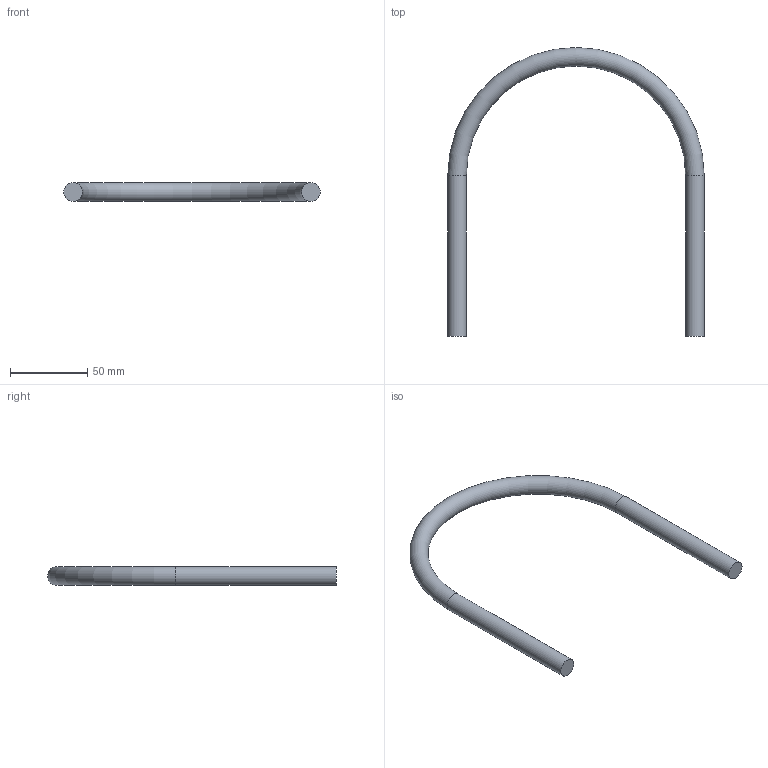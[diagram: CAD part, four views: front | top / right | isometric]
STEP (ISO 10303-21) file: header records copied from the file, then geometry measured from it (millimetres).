
FILE_DESCRIPTION(/* description */ (''),/* implementation_level */ '2;1');
FILE_NAME(/* name */ 'C:\Users\D\Documents\Inventor\各種小物\JIS\01-Uボルト2\一般配管用\125A\u-bolt-125a-m12.stp',/* time_stamp */ '2022-04-27T10:18:32+09:00',/* author */ ('D'),/* organization */ (''),/* preprocessor_version */ 'ST-DEVELOPER v18',/* originating_system */ 'Autodesk Inventor 2020',/* authorisation */ '');
FILE_SCHEMA (('AUTOMOTIVE_DESIGN { 1 0 10303 214 3 1 1 }'));
Length unit declared in the file: millimetre
Products named in the file (1): u-bolt-8a-m6
Bounding box: 166 x 187 x 12 mm (x, y, z)
Volume: 50882.8 mm3; surface area: 17187.1 mm2
Topology: 1 solids, 1 shells, 5 faces, 11 edges, 8 vertices
Faces by surface type: cylinder 2, plane 2, torus 1
Full cylindrical faces by diameter (mm): 12 x2
Entity records: 191 total; most frequent: DIRECTION 32, CARTESIAN_POINT 25, ORIENTED_EDGE 22, AXIS2_PLACEMENT_3D 15, EDGE_CURVE 11, CIRCLE 9, VERTEX_POINT 8, FACE_OUTER_BOUND 5
